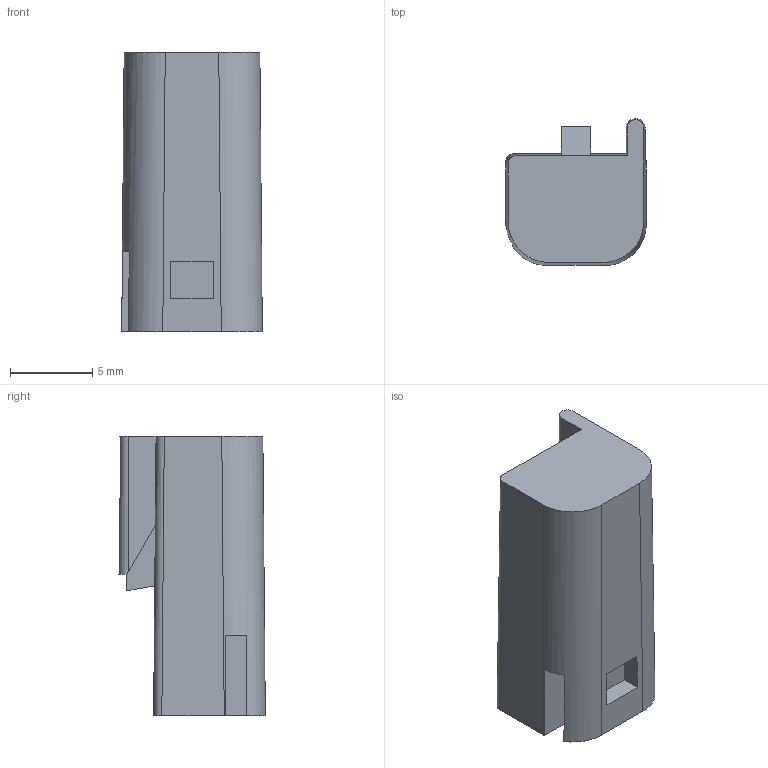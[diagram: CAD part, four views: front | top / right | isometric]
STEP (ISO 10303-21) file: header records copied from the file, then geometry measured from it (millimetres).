
FILE_DESCRIPTION(/* description */ (''),/* implementation_level */ '2;1');
FILE_NAME(/* name */ '12047662-ENV11_06-CONN.stp',/* time_stamp */ '2021-09-06T13:31:02+05:00',/* author */ (''),/* organization */ (''),/* preprocessor_version */ 'ST-DEVELOPER v16',/* originating_system */ 'SIEMENS PLM Software NX 11.0',/* authorisation */ '');
FILE_SCHEMA (('AP203_CONFIGURATION_CONTROLLED_3D_DESIGN_OF_MECHANICAL_PARTS_AND_ASSEMBLIES_MIM_LF { 1 0 10303 403 2 1 2}'));
Length unit declared in the file: millimetre
Products named in the file (1): hjcv19D8AACDzxep
Bounding box: 8.56 x 8.92 x 17 mm (x, y, z)
Volume: 877.2 mm3; surface area: 694.5 mm2
Topology: 1 solids, 1 shells, 26 faces, 69 edges, 46 vertices
Faces by surface type: plane 21, cylinder 4, cone 1
Entity records: 913 total; most frequent: CARTESIAN_POINT 142, ORIENTED_EDGE 138, DIRECTION 137, EDGE_CURVE 69, LINE 55, VECTOR 55, VERTEX_POINT 46, AXIS2_PLACEMENT_3D 41
